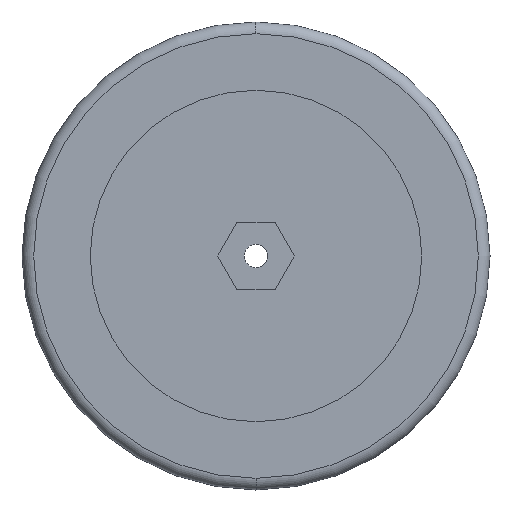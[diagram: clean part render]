
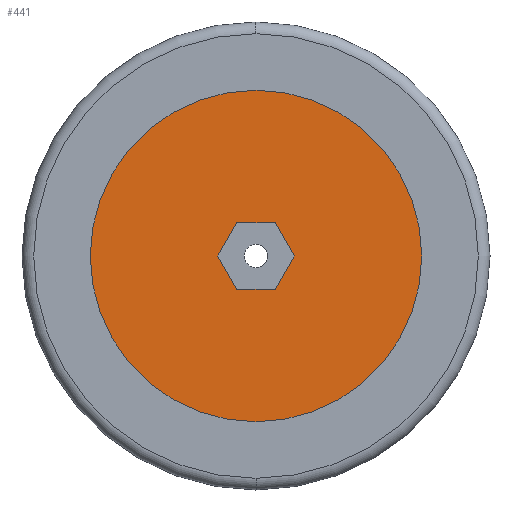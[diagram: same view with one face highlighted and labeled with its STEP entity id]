
A CAD part, left-side view. The second image highlights one B-rep face of the part: STEP entity #441.
In plain terms, the highlighted planar face has unit normal (-1, 0, 0).
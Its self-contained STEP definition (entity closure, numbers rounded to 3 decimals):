
#9 = VECTOR ( 'NONE', #267, 1000. ) ;
#44 = CARTESIAN_POINT ( 'NONE',  ( -0.5, 0., 0. ) ) ;
#47 = EDGE_CURVE ( 'NONE', #723, #1436, #303, .T. ) ;
#49 = DIRECTION ( 'NONE',  ( -1., 0., 0. ) ) ;
#55 = VECTOR ( 'NONE', #890, 1000. ) ;
#74 = VERTEX_POINT ( 'NONE', #215 ) ;
#114 = AXIS2_PLACEMENT_3D ( 'NONE', #1238, #555, #1345 ) ;
#127 = CARTESIAN_POINT ( 'NONE',  ( -0.5, 0., -42.5 ) ) ;
#128 = ORIENTED_EDGE ( 'NONE', *, *, #525, .F. ) ;
#215 = CARTESIAN_POINT ( 'NONE',  ( -0.5, -9.813, 0. ) ) ;
#267 = DIRECTION ( 'NONE',  ( 0., 0.5, -0.866 ) ) ;
#282 = EDGE_CURVE ( 'NONE', #1148, #1469, #623, .T. ) ;
#295 = CARTESIAN_POINT ( 'NONE',  ( -0.5, -4.907, 8.498 ) ) ;
#303 = CIRCLE ( 'NONE', #114, 42.5 ) ;
#310 = LINE ( 'NONE', #295, #1183 ) ;
#328 = LINE ( 'NONE', #1203, #9 ) ;
#339 = ORIENTED_EDGE ( 'NONE', *, *, #1434, .F. ) ;
#411 = FACE_OUTER_BOUND ( 'NONE', #426, .T. ) ;
#426 = EDGE_LOOP ( 'NONE', ( #987, #1250 ) ) ;
#437 = CARTESIAN_POINT ( 'NONE',  ( -0.5, -4.907, -8.498 ) ) ;
#441 = ADVANCED_FACE ( 'NONE', ( #548, #411 ), #1387, .T. ) ;
#471 = VERTEX_POINT ( 'NONE', #664 ) ;
#484 = AXIS2_PLACEMENT_3D ( 'NONE', #1023, #817, #911 ) ;
#515 = CARTESIAN_POINT ( 'NONE',  ( -0.5, 9.813, 0. ) ) ;
#525 = EDGE_CURVE ( 'NONE', #1314, #876, #328, .T. ) ;
#526 = CARTESIAN_POINT ( 'NONE',  ( -0.5, 4.907, -8.498 ) ) ;
#548 = FACE_BOUND ( 'NONE', #1227, .T. ) ;
#555 = DIRECTION ( 'NONE',  ( -1., 0., 0. ) ) ;
#564 = CARTESIAN_POINT ( 'NONE',  ( -0.5, 0., 42.5 ) ) ;
#574 = VECTOR ( 'NONE', #588, 1000. ) ;
#587 = CARTESIAN_POINT ( 'NONE',  ( -0.5, -9.813, 0. ) ) ;
#588 = DIRECTION ( 'NONE',  ( 0., -0.5, -0.866 ) ) ;
#616 = ORIENTED_EDGE ( 'NONE', *, *, #282, .F. ) ;
#623 = LINE ( 'NONE', #526, #1192 ) ;
#641 = ORIENTED_EDGE ( 'NONE', *, *, #840, .F. ) ;
#664 = CARTESIAN_POINT ( 'NONE',  ( -0.5, -4.907, 8.498 ) ) ;
#703 = DIRECTION ( 'NONE',  ( 0., -1., 0. ) ) ;
#723 = VERTEX_POINT ( 'NONE', #127 ) ;
#745 = ORIENTED_EDGE ( 'NONE', *, *, #1369, .F. ) ;
#751 = LINE ( 'NONE', #437, #55 ) ;
#780 = DIRECTION ( 'NONE',  ( 0., 0., 1. ) ) ;
#784 = DIRECTION ( 'NONE',  ( 0., 0.5, 0.866 ) ) ;
#817 = DIRECTION ( 'NONE',  ( -1., 0., 0. ) ) ;
#840 = EDGE_CURVE ( 'NONE', #471, #1314, #310, .T. ) ;
#848 = CIRCLE ( 'NONE', #1490, 42.5 ) ;
#876 = VERTEX_POINT ( 'NONE', #515 ) ;
#878 = LINE ( 'NONE', #1102, #574 ) ;
#890 = DIRECTION ( 'NONE',  ( 0., -0.5, 0.866 ) ) ;
#911 = DIRECTION ( 'NONE',  ( 0., 0., 1. ) ) ;
#949 = LINE ( 'NONE', #587, #1003 ) ;
#987 = ORIENTED_EDGE ( 'NONE', *, *, #47, .T. ) ;
#1003 = VECTOR ( 'NONE', #784, 1000. ) ;
#1023 = CARTESIAN_POINT ( 'NONE',  ( -0.5, 0., 0. ) ) ;
#1033 = CARTESIAN_POINT ( 'NONE',  ( -0.5, 4.907, -8.498 ) ) ;
#1047 = ORIENTED_EDGE ( 'NONE', *, *, #1071, .F. ) ;
#1071 = EDGE_CURVE ( 'NONE', #74, #471, #949, .T. ) ;
#1091 = DIRECTION ( 'NONE',  ( 0., 1., 0. ) ) ;
#1102 = CARTESIAN_POINT ( 'NONE',  ( -0.5, 9.813, 0. ) ) ;
#1135 = CARTESIAN_POINT ( 'NONE',  ( -0.5, -4.907, -8.498 ) ) ;
#1148 = VERTEX_POINT ( 'NONE', #1033 ) ;
#1183 = VECTOR ( 'NONE', #1091, 1000. ) ;
#1192 = VECTOR ( 'NONE', #703, 1000. ) ;
#1203 = CARTESIAN_POINT ( 'NONE',  ( -0.5, 4.907, 8.498 ) ) ;
#1227 = EDGE_LOOP ( 'NONE', ( #128, #641, #1047, #745, #616, #339 ) ) ;
#1238 = CARTESIAN_POINT ( 'NONE',  ( -0.5, 0., 0. ) ) ;
#1250 = ORIENTED_EDGE ( 'NONE', *, *, #1478, .T. ) ;
#1314 = VERTEX_POINT ( 'NONE', #1339 ) ;
#1339 = CARTESIAN_POINT ( 'NONE',  ( -0.5, 4.907, 8.498 ) ) ;
#1345 = DIRECTION ( 'NONE',  ( 0., 0., 1. ) ) ;
#1369 = EDGE_CURVE ( 'NONE', #1469, #74, #751, .T. ) ;
#1387 = PLANE ( 'NONE',  #484 ) ;
#1434 = EDGE_CURVE ( 'NONE', #876, #1148, #878, .T. ) ;
#1436 = VERTEX_POINT ( 'NONE', #564 ) ;
#1469 = VERTEX_POINT ( 'NONE', #1135 ) ;
#1478 = EDGE_CURVE ( 'NONE', #1436, #723, #848, .T. ) ;
#1490 = AXIS2_PLACEMENT_3D ( 'NONE', #44, #49, #780 ) ;
